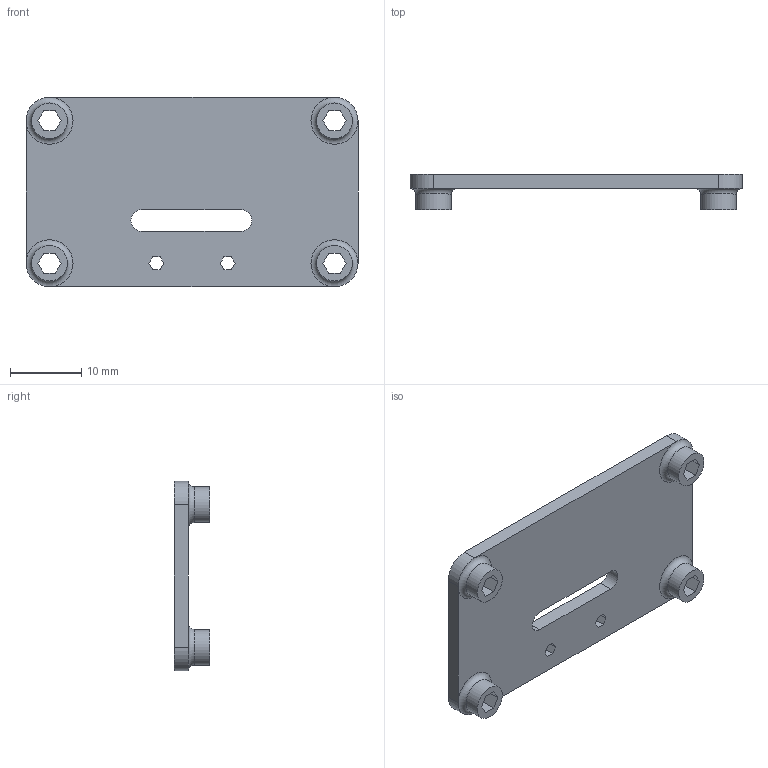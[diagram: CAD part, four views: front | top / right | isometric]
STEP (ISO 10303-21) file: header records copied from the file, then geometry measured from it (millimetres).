
FILE_DESCRIPTION(/* description */ (''),/* implementation_level */ '2;1');
FILE_NAME(/* name */ 'Pi_Camera_Stand _P1.step',/* time_stamp */ '2020-06-16T17:12:43+09:00',/* author */ (''),/* organization */ (''),/* preprocessor_version */ 'ST-DEVELOPER v18.1',/* originating_system */ 'Autodesk Translation Framework v9.3.0.1241',/* authorisation */ '');
FILE_SCHEMA (('AUTOMOTIVE_DESIGN { 1 0 10303 214 3 1 1 }'));
Length unit declared in the file: millimetre
Products named in the file (1): Camera Stand p1
Bounding box: 46.6 x 5 x 26.6 mm (x, y, z)
Volume: 2460.1 mm3; surface area: 3040.1 mm2
Topology: 1 solids, 1 shells, 62 faces, 170 edges, 110 vertices
Faces by surface type: plane 48, cylinder 10, torus 4
Full cylindrical faces by diameter (mm): 5 x4
Entity records: 2009 total; most frequent: CARTESIAN_POINT 343, ORIENTED_EDGE 340, DIRECTION 330, EDGE_CURVE 170, LINE 136, VECTOR 136, VERTEX_POINT 110, AXIS2_PLACEMENT_3D 97
